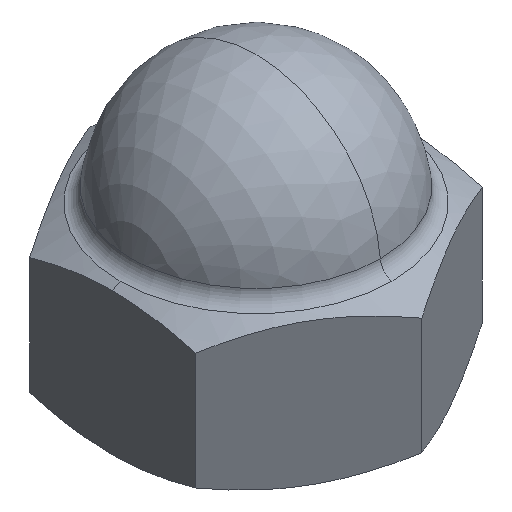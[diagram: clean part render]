
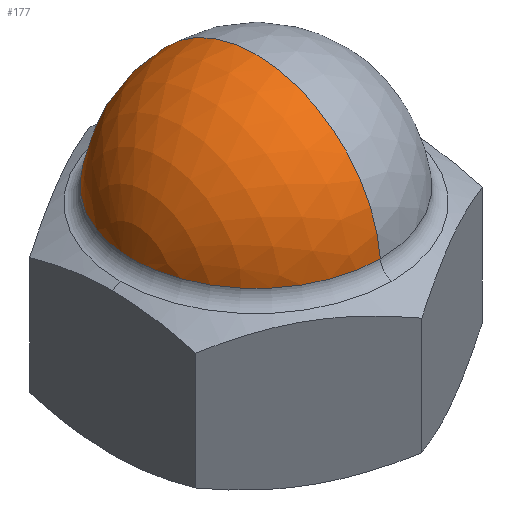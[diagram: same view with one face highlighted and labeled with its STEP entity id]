
A CAD part, isometric view. The second image highlights one B-rep face of the part: STEP entity #177.
In plain terms, the highlighted spherical face has radius 8.25 mm.
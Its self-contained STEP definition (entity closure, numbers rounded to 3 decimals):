
#58 = CARTESIAN_POINT ( 'NONE',  ( 0., -8.225, 10.897 ) ) ;
#73 = DIRECTION ( 'NONE',  ( 0., -1., 0. ) ) ;
#112 = ORIENTED_EDGE ( 'NONE', *, *, #881, .T. ) ;
#167 = EDGE_CURVE ( 'NONE', #256, #888, #208, .T. ) ;
#168 = CIRCLE ( 'NONE', #658, 8.25 ) ;
#170 = CARTESIAN_POINT ( 'NONE',  ( 0., 0., 10.25 ) ) ;
#177 = ADVANCED_FACE ( 'NONE', ( #780 ), #437, .T. ) ;
#208 = CIRCLE ( 'NONE', #339, 8.225 ) ;
#256 = VERTEX_POINT ( 'NONE', #320 ) ;
#269 = CIRCLE ( 'NONE', #397, 8.25 ) ;
#285 = DIRECTION ( 'NONE',  ( -1., 0., 0. ) ) ;
#300 = DIRECTION ( 'NONE',  ( 1., 0., 0. ) ) ;
#312 = CARTESIAN_POINT ( 'NONE',  ( 0., 0., 10.897 ) ) ;
#320 = CARTESIAN_POINT ( 'NONE',  ( 0., 8.225, 10.897 ) ) ;
#339 = AXIS2_PLACEMENT_3D ( 'NONE', #312, #367, #772 ) ;
#345 = CARTESIAN_POINT ( 'NONE',  ( 0., 0., 10.25 ) ) ;
#358 = DIRECTION ( 'NONE',  ( 0., 0., -1. ) ) ;
#367 = DIRECTION ( 'NONE',  ( 0., 0., 1. ) ) ;
#369 = EDGE_LOOP ( 'NONE', ( #751, #112, #799 ) ) ;
#372 = DIRECTION ( 'NONE',  ( -1., 0., 0. ) ) ;
#397 = AXIS2_PLACEMENT_3D ( 'NONE', #827, #300, #358 ) ;
#437 = SPHERICAL_SURFACE ( 'NONE', #847, 8.25 ) ;
#543 = EDGE_CURVE ( 'NONE', #256, #735, #269, .T. ) ;
#596 = CARTESIAN_POINT ( 'NONE',  ( 0., 0., 18.5 ) ) ;
#641 = DIRECTION ( 'NONE',  ( 0., 1., 0. ) ) ;
#658 = AXIS2_PLACEMENT_3D ( 'NONE', #345, #285, #73 ) ;
#735 = VERTEX_POINT ( 'NONE', #596 ) ;
#751 = ORIENTED_EDGE ( 'NONE', *, *, #167, .T. ) ;
#772 = DIRECTION ( 'NONE',  ( 0., 1., 0. ) ) ;
#780 = FACE_OUTER_BOUND ( 'NONE', #369, .T. ) ;
#799 = ORIENTED_EDGE ( 'NONE', *, *, #543, .F. ) ;
#827 = CARTESIAN_POINT ( 'NONE',  ( 0., 0., 10.25 ) ) ;
#847 = AXIS2_PLACEMENT_3D ( 'NONE', #170, #372, #641 ) ;
#881 = EDGE_CURVE ( 'NONE', #888, #735, #168, .T. ) ;
#888 = VERTEX_POINT ( 'NONE', #58 ) ;
